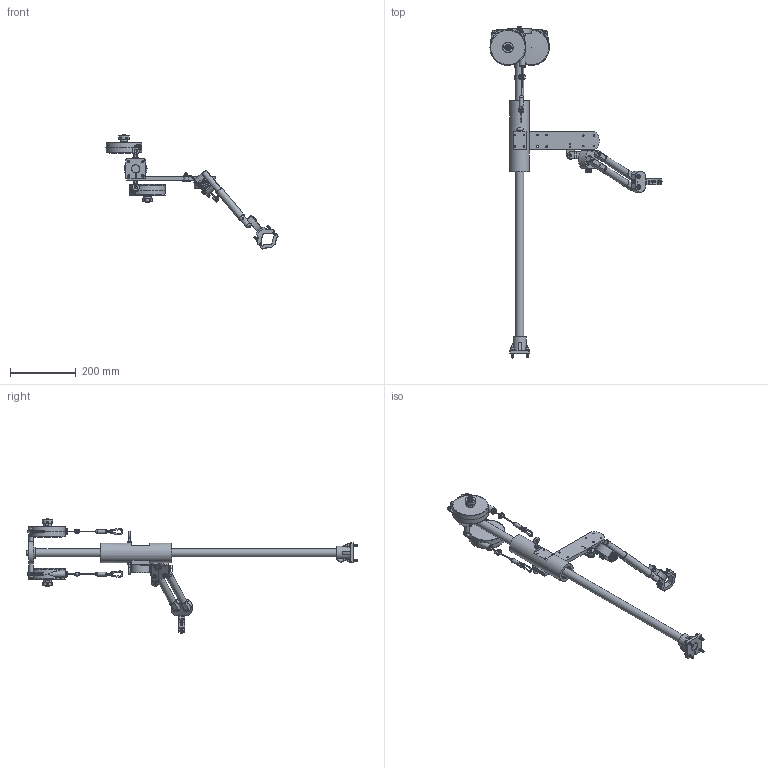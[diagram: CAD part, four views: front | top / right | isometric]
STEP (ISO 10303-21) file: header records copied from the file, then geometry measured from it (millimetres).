
FILE_DESCRIPTION (( 'STEP AP214' ), '1' );
FILE_NAME ('040.0003.000.STEP', '2017-09-19T11:44:49', ( 'sogea' ), ( 'Hewlett-Packard Company' ), 'SwSTEP 2.0', 'SolidWorks 2016', '' );
FILE_SCHEMA (( 'AUTOMOTIVE_DESIGN' ));
Length unit declared in the file: millimetre
Products named in the file (1): 040.0003.000
Bounding box: 521.48 x 1006.4 x 346.29 mm (x, y, z)
Surface area: 399161.3 mm2 (no closed solid volume)
Topology: 0 solids, 241 shells, 1322 faces, 5062 edges, 3753 vertices
Faces by surface type: plane 602, cone 298, cylinder 282, bspline 107, torus 33
Full cylindrical faces by diameter (mm): 2 x6, 3 x3, 3.3 x4, 4 x5, 4.2 x12, 5 x5, 5.5 x6, 6 x4, 6.5 x1, 6.8 x1, 7 x1, 7.64 x1, 8 x3, 8.5 x3, 9 x12, 9.5 x2, 10 x10, 12 x6, 13 x5, 14 x1, 15 x2, 16 x1, 19 x6, 19.5 x1, 20 x1, 21 x2, 21.5 x4, 25 x1, 30 x1, 32 x2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
Entity records: 83040 total; most frequent: CARTESIAN_POINT 31895, DIRECTION 6749, ORIENTED_EDGE 6288, EDGE_CURVE 4519, VERTEX_POINT 3678, AXIS2_PLACEMENT_3D 2563, EDGE_LOOP 1976, LINE 1623
